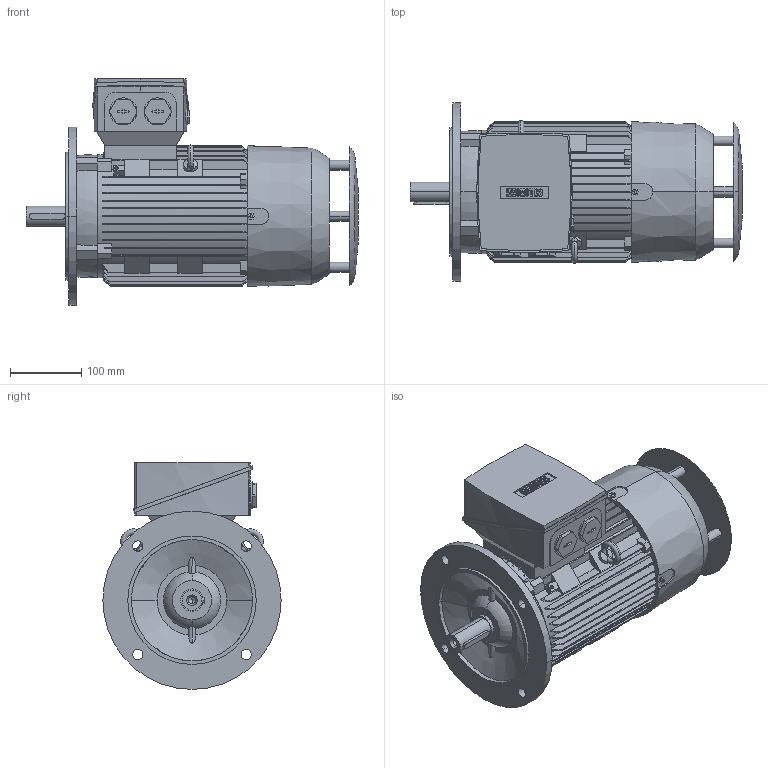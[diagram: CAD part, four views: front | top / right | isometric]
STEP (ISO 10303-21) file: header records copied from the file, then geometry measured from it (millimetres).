
FILE_DESCRIPTION(('STEP AP214'),'1');
FILE_NAME('cctmp_82F59B6E-F3C4-433B-B137-ED999DBC218A_2026_04_15_13_19_01_0824_23872..stp','2026-04-15T11:19:02',('KiM GmbH'),('CADClick - www.CADClick.com'),'Spatial InterOp 3D',' ','unknown authorization');
FILE_SCHEMA(('AUTOMOTIVE_DESIGN'));
Length unit declared in the file: millimetre
Products named in the file (1): 2026_04_15_13_19_01_0824
Bounding box: 465.5 x 250 x 318 mm (x, y, z)
Volume: 11776399.8 mm3; surface area: 684720.6 mm2
Topology: 7 solids, 7 shells, 924 faces, 2508 edges, 1648 vertices
Faces by surface type: plane 556, cylinder 224, torus 108, cone 32, sphere 4
Entity records: 41444 total; most frequent: CARTESIAN_POINT 10781, ORIENTED_EDGE 5012, DIRECTION 4638, EDGE_CURVE 2506, VERTEX_POINT 1648, AXIS2_PLACEMENT_3D 1569, LINE 1500, VECTOR 1500
